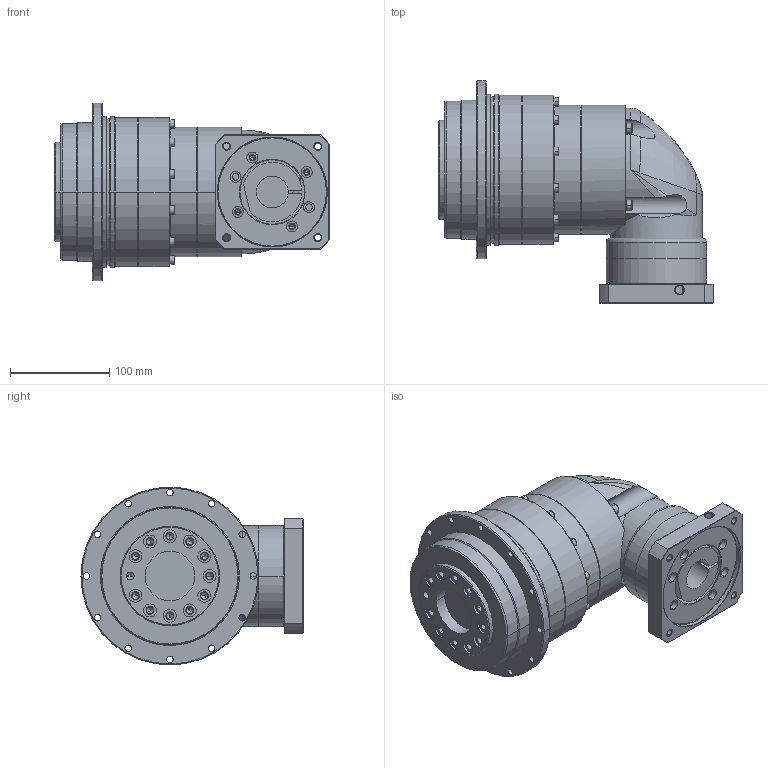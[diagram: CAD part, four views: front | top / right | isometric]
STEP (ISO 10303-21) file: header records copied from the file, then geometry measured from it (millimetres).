
FILE_DESCRIPTION((''),'2;1');
FILE_NAME('ADR1402-P0403401001_ASM','2008-09-02T',('d00080'),(''),'PRO/ENGINEER BY PARAMETRIC TECHNOLOGY CORPORATION, 2006170','PRO/ENGINEER BY PARAMETRIC TECHNOLOGY CORPORATION, 2006170','');
FILE_SCHEMA(('CONFIG_CONTROL_DESIGN'));
Length unit declared in the file: millimetre
Products named in the file (11): AD140-2; PH250001; 220120616; AH_RING_GEAR-SET2-5_ASM; P1002400001; 233100004; 220100708; HOUSING-SET-4_ASM; P1305400001; P0403401001; ADR1402-P0403401001_ASM
Assembly tree (27 placements, depth 3):
  ADR1402-P0403401001_ASM
    AD140-2
    AH_RING_GEAR-SET2-5_ASM
      PH250001
      220120616  x12
    HOUSING-SET-4_ASM
      P1002400001
      233100004  x4
      220100708  x4
    P1305400001
    P0403401001
Bounding box: 276.5 x 223.5 x 179 mm (x, y, z)
Volume: 3949797.7 mm3; surface area: 358583.3 mm2
Topology: 25 solids, 69 shells, 1213 faces, 2744 edges, 1650 vertices
Faces by surface type: cylinder 528, plane 380, cone 226, torus 61, bspline 18
Entity records: 22949 total; most frequent: CARTESIAN_POINT 4896, DIRECTION 4173, ORIENTED_EDGE 3228, AXIS2_PLACEMENT_3D 1763, EDGE_CURVE 1702, VERTEX_POINT 1094, CIRCLE 964, EDGE_LOOP 956
